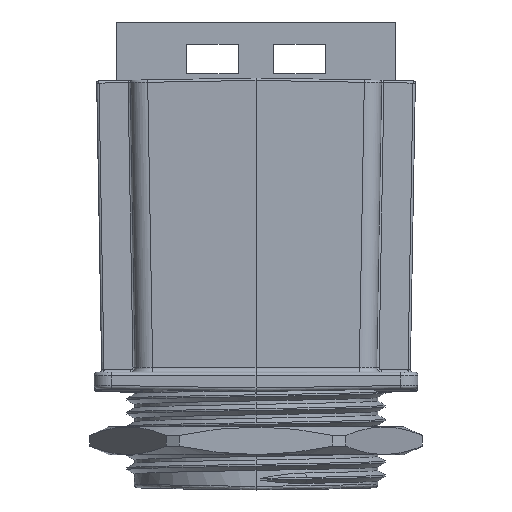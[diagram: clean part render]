
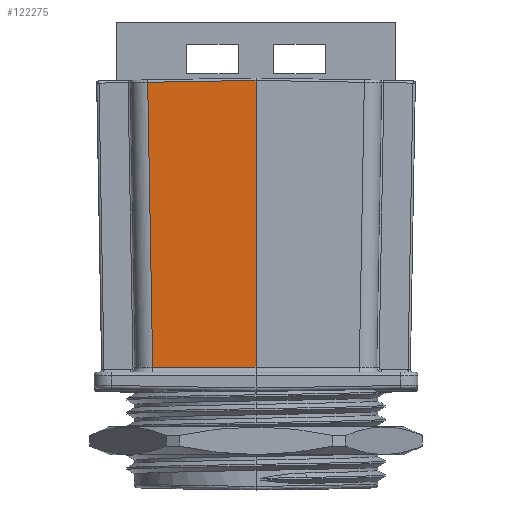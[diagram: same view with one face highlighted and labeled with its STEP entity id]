
A CAD part, front view. The second image highlights one B-rep face of the part: STEP entity #122275.
In plain terms, the highlighted planar face has unit normal (-0.017, -1, -0.018).
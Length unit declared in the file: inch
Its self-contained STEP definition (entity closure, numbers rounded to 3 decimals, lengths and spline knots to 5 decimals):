
#279 = VECTOR ( 'NONE', #117653, 39.37008 ) ;
#492 = EDGE_CURVE ( 'NONE', #81870, #15839, #83938, .T. ) ;
#2171 = LINE ( 'NONE', #82929, #88584 ) ;
#13041 = VERTEX_POINT ( 'NONE', #43249 ) ;
#15262 = FACE_OUTER_BOUND ( 'NONE', #129353, .T. ) ;
#15839 = VERTEX_POINT ( 'NONE', #133746 ) ;
#23206 = LINE ( 'NONE', #129506, #279 ) ;
#23919 = DIRECTION ( 'NONE',  ( 0., 0.017, -1. ) ) ;
#40465 = EDGE_CURVE ( 'NONE', #81870, #48071, #122197, .T. ) ;
#41199 = CARTESIAN_POINT ( 'NONE',  ( -0.4598, -0.6168, 1.23101 ) ) ;
#43249 = CARTESIAN_POINT ( 'NONE',  ( -0.43868, -0.59604, 0.02035 ) ) ;
#46524 = CARTESIAN_POINT ( 'NONE',  ( -0.512, -0.616, 1.2372 ) ) ;
#46678 = ORIENTED_EDGE ( 'NONE', *, *, #492, .F. ) ;
#47559 = DIRECTION ( 'NONE',  ( 0.017, 0.017, -1. ) ) ;
#48071 = VERTEX_POINT ( 'NONE', #98144 ) ;
#59276 = PLANE ( 'NONE',  #100615 ) ;
#63789 = ORIENTED_EDGE ( 'NONE', *, *, #105668, .T. ) ;
#64290 = DIRECTION ( 'NONE',  ( -1., 0.018, -0.017 ) ) ;
#64774 = CARTESIAN_POINT ( 'NONE',  ( 0., -0.62497, 1.23903 ) ) ;
#69120 = EDGE_CURVE ( 'NONE', #48071, #13041, #2171, .T. ) ;
#71626 = VECTOR ( 'NONE', #74125, 39.37008 ) ;
#74125 = DIRECTION ( 'NONE',  ( 0., 0.017, -1. ) ) ;
#81428 = DIRECTION ( 'NONE',  ( -0.017, -1., -0.017 ) ) ;
#81718 = ORIENTED_EDGE ( 'NONE', *, *, #69120, .T. ) ;
#81870 = VERTEX_POINT ( 'NONE', #64774 ) ;
#82929 = CARTESIAN_POINT ( 'NONE',  ( -0.45993, -0.61692, 1.2381 ) ) ;
#83938 = LINE ( 'NONE', #128346, #71626 ) ;
#88584 = VECTOR ( 'NONE', #47559, 39.37008 ) ;
#98144 = CARTESIAN_POINT ( 'NONE',  ( -0.45981, -0.6168, 1.23101 ) ) ;
#100615 = AXIS2_PLACEMENT_3D ( 'NONE', #46524, #81428, #23919 ) ;
#104694 = ORIENTED_EDGE ( 'NONE', *, *, #40465, .T. ) ;
#105668 = EDGE_CURVE ( 'NONE', #13041, #15839, #23206, .T. ) ;
#111658 = VECTOR ( 'NONE', #64290, 39.37008 ) ;
#117653 = DIRECTION ( 'NONE',  ( 1., -0.017, 0. ) ) ;
#122197 = LINE ( 'NONE', #41199, #111658 ) ;
#122275 = ADVANCED_FACE ( 'NONE', ( #15262 ), #59276, .T. ) ;
#128346 = CARTESIAN_POINT ( 'NONE',  ( 0., -0.62493, 1.23705 ) ) ;
#129353 = EDGE_LOOP ( 'NONE', ( #81718, #63789, #46678, #104694 ) ) ;
#129506 = CARTESIAN_POINT ( 'NONE',  ( -0.51163, -0.59476, 0.02035 ) ) ;
#133746 = CARTESIAN_POINT ( 'NONE',  ( 0., -0.60369, 0.02035 ) ) ;
